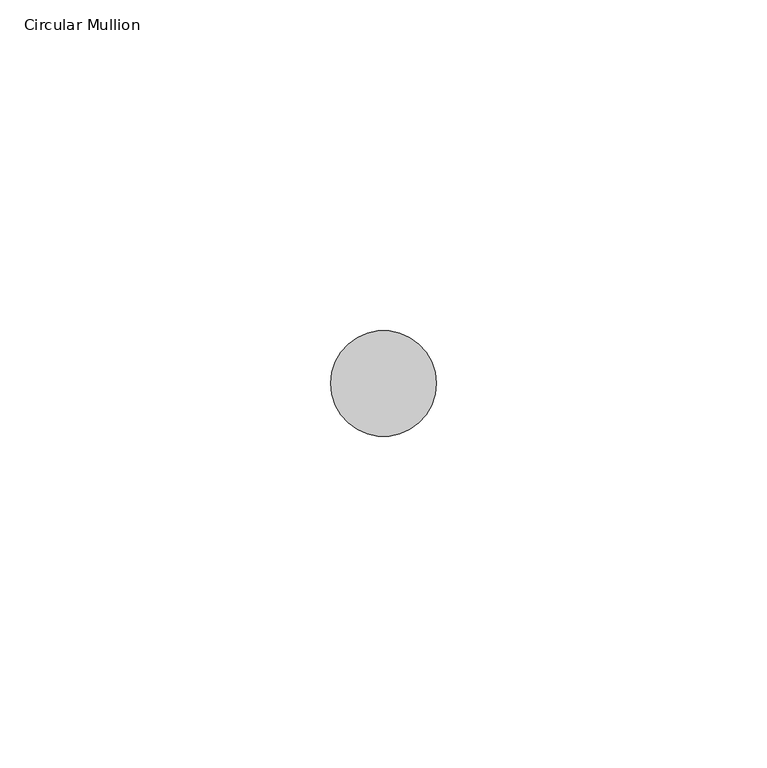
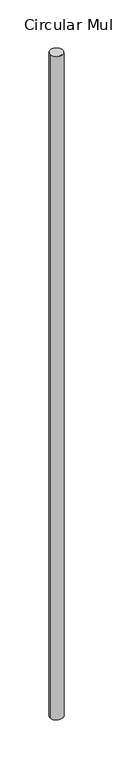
"""IFC4 building model written with IfcOpenShell, lengths in millimetres: member geometry, Circular Mullion : ARQ_HERR_16mm."""

from ifc_helpers import new_model, si_unit, point, frame, origin, origin_2d, place, context, project, spatial, circle_curve, trimmed, segment, composite_curve, outline, extrude, source, transform, mapped, element, save


def circular_mullion_6b0818a7(model_context):
    return source(origin(), model_context, "Body", "SweptSolid", [
        extrude(outline(composite_curve([segment(trimmed(circle_curve(origin_2d(), 8.0), [point((8.0, 0.0))], [point((-8.0, 0.0))], False, "CARTESIAN"), True, "CONTINUOUS"), segment(trimmed(circle_curve(origin_2d(), 8.0), [point((-8.0, 0.0))], [point((8.0, 0.0))], False, "CARTESIAN"), True, "CONTINUOUS")], self_intersect=False)), frame((0.0, 0.0, -872.0436542), z_axis=(0.0, 0.0, 1.0), x_axis=(1.0, 0.0, 0.0)), (0.0, 0.0, 1.0), 872.0436542),
    ])


if __name__ == "__main__":
    model = new_model("IFC4")
    model_context = context("Model", 3, world=origin())
    ifc_project = project(units=[si_unit("LENGTHUNIT", "METRE", prefix="MILLI")], contexts=[model_context])
    site = spatial("IfcSite", under=ifc_project)
    building = spatial("IfcBuilding", under=site)
    placement = place(None, origin())
    circular_mullion_shape = circular_mullion_6b0818a7(model_context)
    element("IfcMember", 1, ObjectType="Circular Mullion : ARQ_HERR_16mm", at=placement, inside=building, context=model_context, shape_type="MappedRepresentation", body=[
        mapped(circular_mullion_shape, transform((0.0, 0.0, 0.0), x_axis=(1.0, 0.0, 0.0), y_axis=(0.0, 1.0, 0.0), z_axis=(0.0, 0.0, 1.0))),
    ])
    save(model, "model.ifc")
